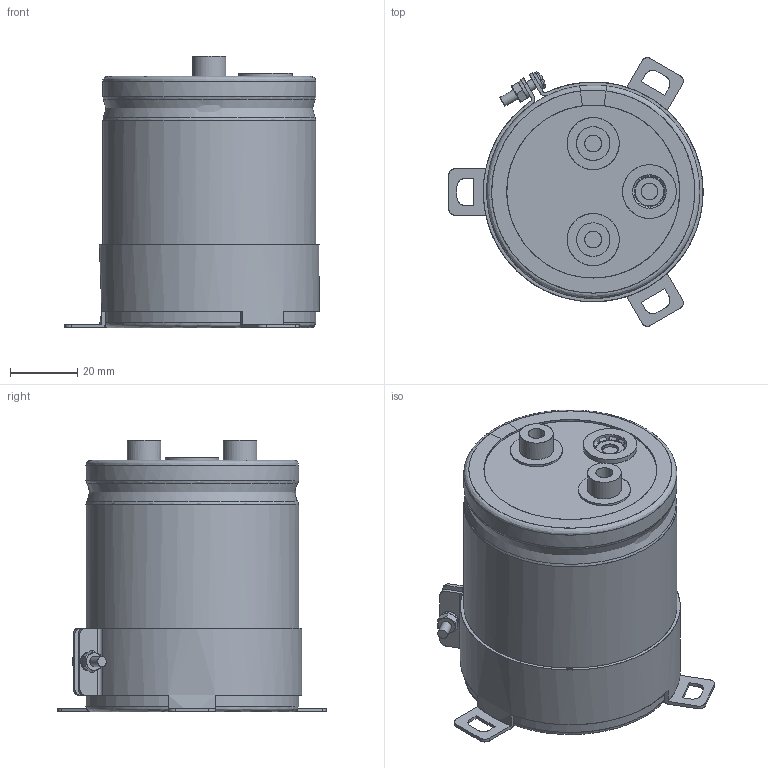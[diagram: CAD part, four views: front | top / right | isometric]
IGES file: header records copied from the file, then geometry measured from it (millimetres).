
Start section: JAMA-IS VERSION  1.0
Bounding box: 75.75 x 80.01 x 81 mm (x, y, z)
Surface area: 66129.8 mm2 (no closed solid volume)
Topology: 0 solids, 0 shells, 259 faces, 4436 edges, 4409 vertices
Faces by surface type: bspline 259
